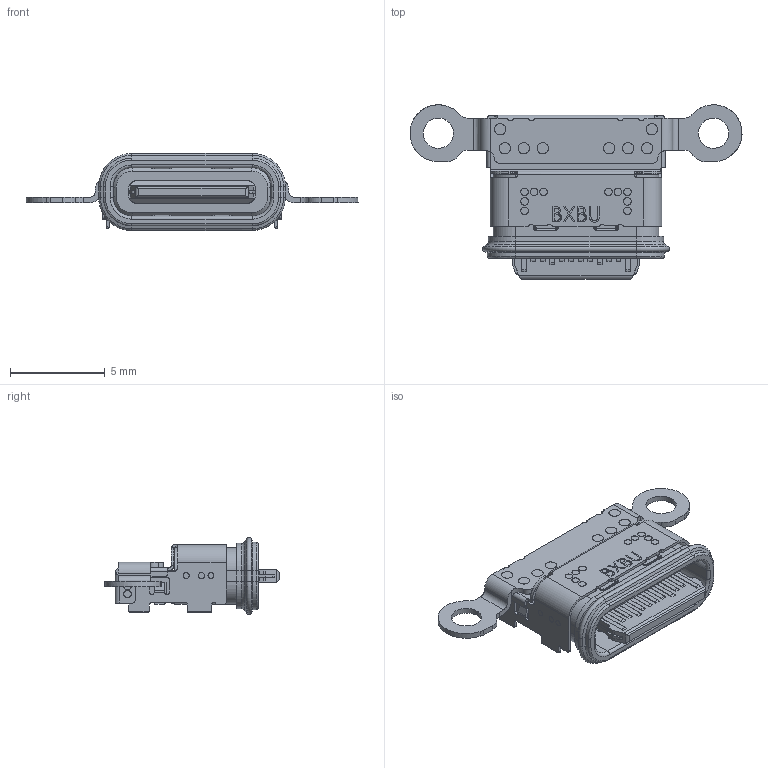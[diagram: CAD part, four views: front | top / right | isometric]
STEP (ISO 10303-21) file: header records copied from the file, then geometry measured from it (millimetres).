
FILE_DESCRIPTION((' '),'2;1');
FILE_NAME( 'U5174-24PNMW8.65LF.stp', '2026-05-09T15:16:55', (' '), ('--- ---'), ' V2026.1 Dec 31 2025', ' 2026 (c)', ' ');
FILE_SCHEMA(('AP242_MANAGED_MODEL_BASED_3D_ENGINEERING_MIM_LF { 1 0 10303 442 1 1 4 }'));
Length unit declared in the file: millimetre
Products named in the file (3): TYPE_C24P防水-3D; U5174-24PNMW8.65LF(2); U5174-24PNMW8.65LF
Assembly tree (2 placements, depth 3):
  U5174-24PNMW8.65LF
    U5174-24PNMW8.65LF(2)
      TYPE_C24P防水-3D
Bounding box: 17.52 x 9.2 x 4.07 mm (x, y, z)
Surface area: 689 mm2
Topology: 3 solids, 7 shells, 1457 faces, 4054 edges, 2634 vertices
Faces by surface type: plane 878, cylinder 440, torus 64, cone 32, bspline 25, sphere 18
Entity records: 49917 total; most frequent: CARTESIAN_POINT 15701, ORIENTED_EDGE 8072, DIRECTION 5398, EDGE_CURVE 4053, VERTEX_POINT 2634, VECTOR 2520, LINE 2520, B_SPLINE_CURVE_WITH_KNOTS 1532
